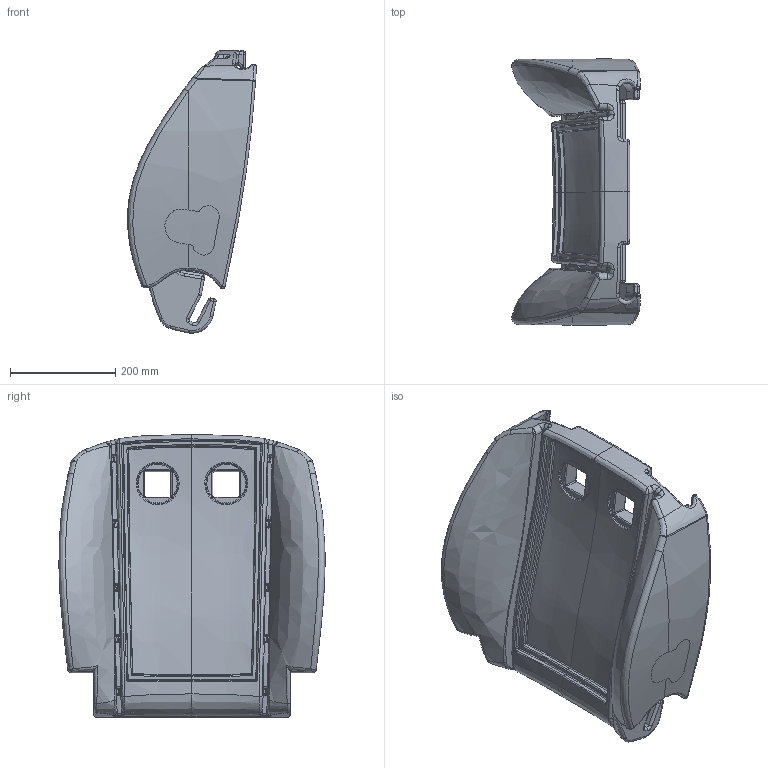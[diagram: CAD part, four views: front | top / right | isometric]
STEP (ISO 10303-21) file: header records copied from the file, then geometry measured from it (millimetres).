
FILE_DESCRIPTION(('CATIA V5 STEP Exchange'),'2;1');
FILE_NAME('C:\Users\Administrator\Desktop\新开件\主驾通风下背SHT0017999_A.stp','2025-03-26T12:42:06+00:00',('none'),('none'),'CATIA Version 5 Release 20 GA (IN-10)','CATIA V5 STEP AP214','none');
FILE_SCHEMA(('AUTOMOTIVE_DESIGN { 1 0 10303 214 1 1 1 1 }'));
Products named in the file (3): SHT0017999; SHT0018034; SHT0018035
Assembly tree (3 placements, depth 2):
  SHT0017999
    SHT0018034  x2
    SHT0018035
Bounding box: 245.1 x 506.3 x 537.01 mm (x, y, z)
Volume: 15548736.8 mm3; surface area: 1029492 mm2
Topology: 3 solids, 3 shells, 2648 faces, 7253 edges, 4504 vertices
Faces by surface type: plane 1627, bspline 576, cylinder 279, sphere 112, torus 46, extrusion 8
Entity records: 152725 total; most frequent: CARTESIAN_POINT 92705, ORIENTED_EDGE 14162, DIRECTION 9314, EDGE_CURVE 7081, VECTOR 4947, LINE 4939, VERTEX_POINT 4480, EDGE_LOOP 2653
